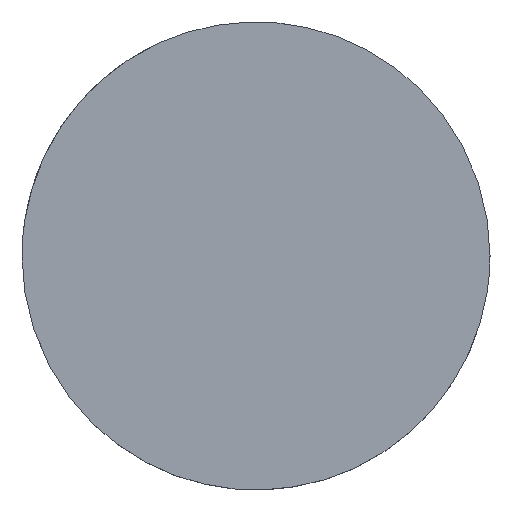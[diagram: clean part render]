
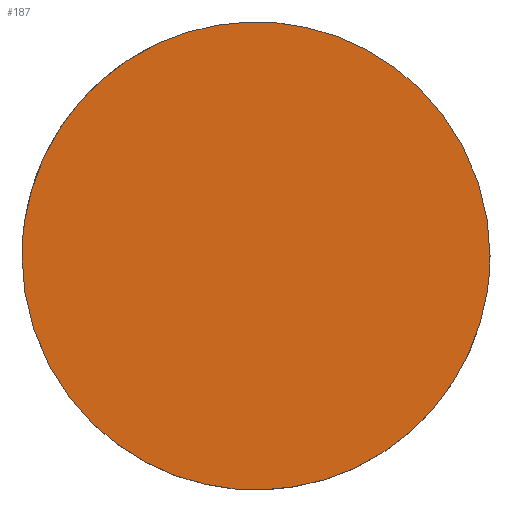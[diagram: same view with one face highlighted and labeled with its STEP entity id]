
A CAD part, top view. The second image highlights one B-rep face of the part: STEP entity #187.
In plain terms, the highlighted planar face has unit normal (0, 0, 1).
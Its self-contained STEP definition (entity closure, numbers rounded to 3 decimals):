
#19 = CARTESIAN_POINT ('', (-12.5, 0., -45.124));
#20 = VERTEX_POINT ('', #19);
#26 = CARTESIAN_POINT ('', (12.5, 0., -45.124));
#27 = VERTEX_POINT ('', #26);
#28 = CARTESIAN_POINT ('', (12.5, 0., -45.124));
#29 = CARTESIAN_POINT ('', (12.5, 12.5, -45.124));
#30 = CARTESIAN_POINT ('', (0., 12.5, -45.124));
#31 = CARTESIAN_POINT ('', (-12.5, 12.5, -45.124));
#32 = CARTESIAN_POINT ('', (-12.5, 0., -45.124));
#33 = (
   BOUNDED_CURVE ()
   B_SPLINE_CURVE (2, (#28, #29, #30, #31, #32), .UNSPECIFIED., .F., .U.)
   B_SPLINE_CURVE_WITH_KNOTS ((3, 2, 3), (0., 1.571, 3.142), .UNSPECIFIED.)
   CURVE ()
   GEOMETRIC_REPRESENTATION_ITEM ()
   RATIONAL_B_SPLINE_CURVE ((1., 0.707, 1., 0.707, 1.))
   REPRESENTATION_ITEM ('')
);
#34 = EDGE_CURVE ('', #27, #20, #33, .T.);
#58 = CARTESIAN_POINT ('', (-12.5, 0., -45.124));
#59 = CARTESIAN_POINT ('', (-12.5, -12.5, -45.124));
#60 = CARTESIAN_POINT ('', (0., -12.5, -45.124));
#61 = CARTESIAN_POINT ('', (12.5, -12.5, -45.124));
#62 = CARTESIAN_POINT ('', (12.5, 0., -45.124));
#63 = (
   BOUNDED_CURVE ()
   B_SPLINE_CURVE (2, (#58, #59, #60, #61, #62), .UNSPECIFIED., .F., .U.)
   B_SPLINE_CURVE_WITH_KNOTS ((3, 2, 3), (3.142, 4.712, 6.283), .UNSPECIFIED.)
   CURVE ()
   GEOMETRIC_REPRESENTATION_ITEM ()
   RATIONAL_B_SPLINE_CURVE ((1., 0.707, 1., 0.707, 1.))
   REPRESENTATION_ITEM ('')
);
#64 = EDGE_CURVE ('', #20, #27, #63, .T.);
#178 = ORIENTED_EDGE ('', *, *, #34, .T.);
#179 = ORIENTED_EDGE ('', *, *, #64, .T.);
#180 = EDGE_LOOP ('', (#178, #179));
#181 = FACE_OUTER_BOUND ('', #180, .T.);
#182 = CARTESIAN_POINT ('', (0., 25.704, -45.124));
#183 = DIRECTION ('', (0., 0., 1.));
#184 = DIRECTION ('', (-0.707, -0.707, 0.));
#185 = AXIS2_PLACEMENT_3D ('', #182, #183, #184);
#186 = PLANE ('', #185);
#187 = ADVANCED_FACE ('', (#181), #186, .T.);
